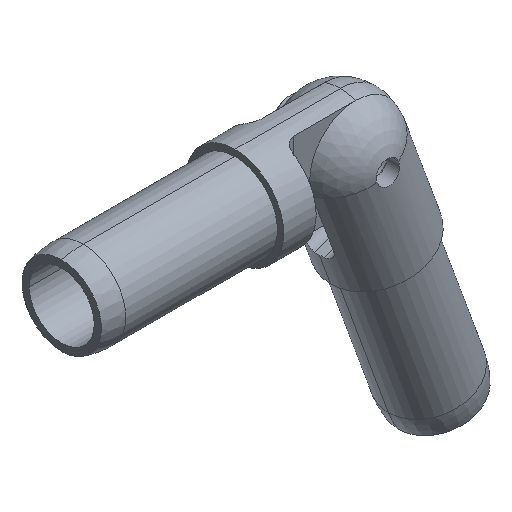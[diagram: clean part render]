
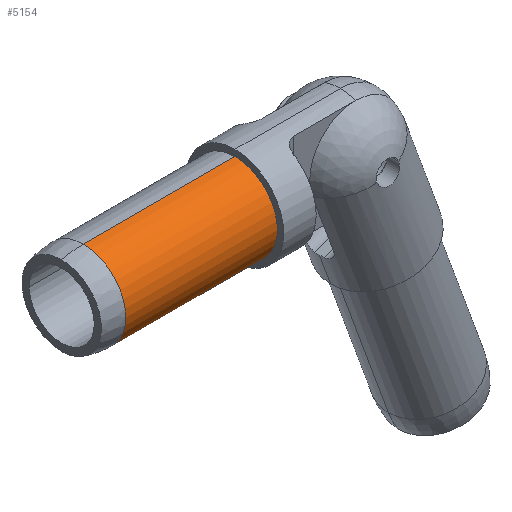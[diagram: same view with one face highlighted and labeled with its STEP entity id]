
A CAD part, isometric view. The second image highlights one B-rep face of the part: STEP entity #5154.
In plain terms, the highlighted cylindrical face has radius 12.446 mm (diameter 24.892 mm), a partial arc.
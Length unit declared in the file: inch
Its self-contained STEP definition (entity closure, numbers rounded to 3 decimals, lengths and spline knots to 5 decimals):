
#119 = DIRECTION ( 'NONE',  ( 0., 0., 1. ) ) ;
#203 = AXIS2_PLACEMENT_3D ( 'NONE', #788, #745, #119 ) ;
#513 = CYLINDRICAL_SURFACE ( 'NONE', #203, 0.49 ) ;
#563 = LINE ( 'NONE', #12508, #1870 ) ;
#745 = DIRECTION ( 'NONE',  ( -1., 0., 0. ) ) ;
#788 = CARTESIAN_POINT ( 'NONE',  ( -2.50185, 1.41142, -2.18731 ) ) ;
#1604 = AXIS2_PLACEMENT_3D ( 'NONE', #12150, #12116, #12076 ) ;
#1839 = VECTOR ( 'NONE', #3479, 39.37008 ) ;
#1870 = VECTOR ( 'NONE', #12546, 39.37008 ) ;
#2158 = FACE_OUTER_BOUND ( 'NONE', #10296, .T. ) ;
#3479 = DIRECTION ( 'NONE',  ( -1., 0., 0. ) ) ;
#3682 = CARTESIAN_POINT ( 'NONE',  ( -2.50185, 1.41142, -2.67731 ) ) ;
#3698 = DIRECTION ( 'NONE',  ( -1., 0., 0. ) ) ;
#3869 = EDGE_CURVE ( 'NONE', #4837, #9630, #563, .T. ) ;
#4066 = CARTESIAN_POINT ( 'NONE',  ( -2.25185, 1.41142, -2.67731 ) ) ;
#4191 = EDGE_CURVE ( 'NONE', #11987, #8462, #4556, .T. ) ;
#4556 = LINE ( 'NONE', #3682, #1839 ) ;
#4837 = VERTEX_POINT ( 'NONE', #10273 ) ;
#5154 = ADVANCED_FACE ( 'NONE', ( #2158 ), #513, .T. ) ;
#5495 = CARTESIAN_POINT ( 'NONE',  ( -2.25185, 1.41142, -1.69731 ) ) ;
#5710 = ORIENTED_EDGE ( 'NONE', *, *, #9705, .T. ) ;
#7039 = EDGE_CURVE ( 'NONE', #8462, #9630, #7836, .T. ) ;
#7266 = CIRCLE ( 'NONE', #12153, 0.49 ) ;
#7836 = CIRCLE ( 'NONE', #1604, 0.49 ) ;
#8462 = VERTEX_POINT ( 'NONE', #4066 ) ;
#9630 = VERTEX_POINT ( 'NONE', #5495 ) ;
#9705 = EDGE_CURVE ( 'NONE', #11987, #4837, #7266, .T. ) ;
#9742 = CARTESIAN_POINT ( 'NONE',  ( -0.50185, 1.41142, -2.18731 ) ) ;
#10273 = CARTESIAN_POINT ( 'NONE',  ( -0.50185, 1.41142, -1.69731 ) ) ;
#10296 = EDGE_LOOP ( 'NONE', ( #12062, #5710, #11958, #12263 ) ) ;
#10754 = DIRECTION ( 'NONE',  ( 0., 0., 1. ) ) ;
#11496 = CARTESIAN_POINT ( 'NONE',  ( -0.50185, 1.41142, -2.67731 ) ) ;
#11958 = ORIENTED_EDGE ( 'NONE', *, *, #3869, .T. ) ;
#11987 = VERTEX_POINT ( 'NONE', #11496 ) ;
#12062 = ORIENTED_EDGE ( 'NONE', *, *, #4191, .F. ) ;
#12076 = DIRECTION ( 'NONE',  ( 0., 0., 1. ) ) ;
#12116 = DIRECTION ( 'NONE',  ( -1., 0., 0. ) ) ;
#12150 = CARTESIAN_POINT ( 'NONE',  ( -2.25185, 1.41142, -2.18731 ) ) ;
#12153 = AXIS2_PLACEMENT_3D ( 'NONE', #9742, #3698, #10754 ) ;
#12263 = ORIENTED_EDGE ( 'NONE', *, *, #7039, .F. ) ;
#12508 = CARTESIAN_POINT ( 'NONE',  ( -2.50185, 1.41142, -1.69731 ) ) ;
#12546 = DIRECTION ( 'NONE',  ( -1., 0., 0. ) ) ;
